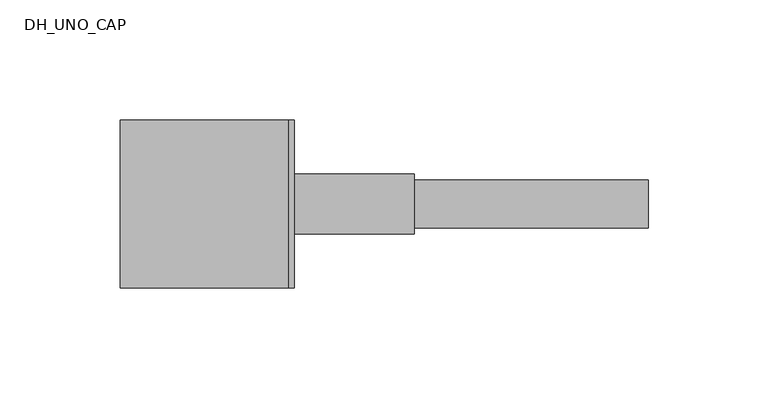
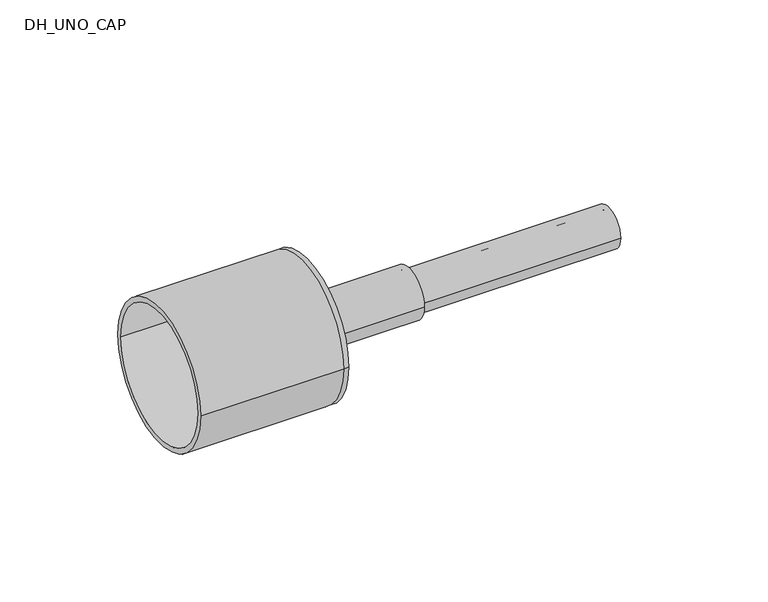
"""IFC4 building model written with IfcOpenShell, lengths in millimetres: pipe fitting geometry, DH_UNO_CAP : INSULPEX UNO 7.4 DW - Rubber Cap."""

from ifc_helpers import new_model, si_unit, point, frame, origin, origin_2d, place, context, project, spatial, polyline, circle_curve, trimmed, segment, composite_curve, outline, extrude, source, transform, mapped, element, save
from ifc_brep_helpers import plane_surface, cylinder_surface, revolved_surface, advanced_brep


def dh_uno_cap_0c001599(model_context):
    return source(origin(), model_context, "Body", "SolidModel", [
        extrude(outline(composite_curve([segment(trimmed(circle_curve(origin_2d(), 10.0), [point((-10.0, 0.0))], [point((10.0, 0.0))], False, "CARTESIAN"), True, "CONTINUOUS"), segment(trimmed(circle_curve(origin_2d(), 10.0), [point((10.0, 0.0))], [point((-10.0, 0.0))], False, "CARTESIAN"), True, "CONTINUOUS")], self_intersect=False), holes=[composite_curve([segment(trimmed(circle_curve(origin_2d(), 7.2), [point((-7.2, 0.0))], [point((7.2, 0.0))], True, "CARTESIAN"), True, "CONTINUOUS"), segment(trimmed(circle_curve(origin_2d(), 7.2), [point((7.2, 0.0))], [point((-7.2, 0.0))], True, "CARTESIAN"), True, "CONTINUOUS")], self_intersect=False)]), frame((0.0, 0.0, 0.0), z_axis=(1.0, 0.0, 0.0), x_axis=(0.0, 1.0, 0.0)), (0.0, 0.0, 1.0), 150.0),
        advanced_brep(
        [(-70.0, -35.0, 0.0), (-70.0, 35.0, 0.0), (-70.0, -32.5, 0.0), (-70.0, 32.5, 0.0), (0.0, -32.5, 0.0), (0.0, 32.5, 0.0), (0.0, -35.0, 0.0), (0.0, 35.0, 0.0), (0.0, 10.0, 0.0), (0.0, -10.0, 0.0), (2.5, -35.0, 0.0), (2.5, 35.0, 0.0), (2.5, -10.0, 0.0), (2.5, 10.0, 0.0)],
        [
            (0, 1, circle_curve(frame((-70.0, 0.0, 0.0), z_axis=(-1.0, 0.0, 0.0), x_axis=(0.0, 1.0, 0.0)), 35.0)),
            (1, 0, circle_curve(frame((-70.0, 0.0, 0.0), z_axis=(-1.0, 0.0, 0.0), x_axis=(0.0, 1.0, 0.0)), 35.0)),
            (2, 3, circle_curve(frame((-70.0, 0.0, 0.0), z_axis=(1.0, 0.0, 0.0), x_axis=(0.0, 1.0, 0.0)), 32.5)),
            (3, 2, circle_curve(frame((-70.0, 0.0, 0.0), z_axis=(1.0, 0.0, 0.0), x_axis=(0.0, 1.0, 0.0)), 32.5)),
            (2, 4),
            (4, 5, circle_curve(frame((0.0, 0.0, 0.0), z_axis=(1.0, 0.0, 0.0), x_axis=(0.0, 1.0, 0.0)), 32.5)),
            (5, 3),
            (5, 4, circle_curve(frame((0.0, 0.0, 0.0), z_axis=(1.0, 0.0, 0.0), x_axis=(0.0, 1.0, 0.0)), 32.5)),
            (0, 6),
            (6, 7, circle_curve(frame((0.0, 0.0, 0.0), z_axis=(-1.0, 0.0, 0.0), x_axis=(0.0, 1.0, 0.0)), 35.0)),
            (7, 1),
            (7, 6, circle_curve(frame((0.0, 0.0, 0.0), z_axis=(-1.0, 0.0, 0.0), x_axis=(0.0, 1.0, 0.0)), 35.0)),
            (8, 9, circle_curve(frame((0.0, 0.0, 0.0), z_axis=(1.0, 0.0, 0.0), x_axis=(0.0, 1.0, 0.0)), 10.0)),
            (9, 8, circle_curve(frame((0.0, 0.0, 0.0), z_axis=(1.0, 0.0, 0.0), x_axis=(0.0, 1.0, 0.0)), 10.0)),
            (10, 11, circle_curve(frame((2.5, 0.0, 0.0), z_axis=(1.0, 0.0, 0.0), x_axis=(0.0, 1.0, 0.0)), 35.0)),
            (11, 10, circle_curve(frame((2.5, 0.0, 0.0), z_axis=(1.0, 0.0, 0.0), x_axis=(0.0, 1.0, 0.0)), 35.0)),
            (12, 13, circle_curve(frame((2.5, 0.0, 0.0), z_axis=(-1.0, 0.0, 0.0), x_axis=(0.0, 1.0, 0.0)), 10.0)),
            (13, 12, circle_curve(frame((2.5, 0.0, 0.0), z_axis=(-1.0, 0.0, 0.0), x_axis=(0.0, 1.0, 0.0)), 10.0)),
            (11, 7),
            (6, 10),
            (8, 13),
            (12, 9),
        ],
        [
            plane_surface(frame((-70.0, 0.0, 0.0), z_axis=(-1.0, 0.0, 0.0), x_axis=(0.0, 0.0, 1.0))),
            revolved_surface(polyline([(0.0, 32.5, 0.0), (-70.0, 32.5, 0.0)]), (-70.0, 0.0, 0.0), (1.0, 0.0, 0.0)),
            cylinder_surface(frame((-70.0, 0.0, 0.0), z_axis=(-1.0, 0.0, 0.0), x_axis=(0.0, 1.0, 0.0)), 35.0),
            plane_surface(frame((0.0, 0.0, 0.0), z_axis=(-1.0, 0.0, 0.0), x_axis=(0.0, 0.0, 1.0))),
            plane_surface(frame((2.5, 0.0, 0.0), z_axis=(1.0, 0.0, 0.0), x_axis=(0.0, 0.0, 1.0))),
            cylinder_surface(frame((0.0, 0.0, 0.0), z_axis=(-1.0, 0.0, 0.0), x_axis=(0.0, 1.0, 0.0)), 35.0),
            revolved_surface(polyline([(0.0, 10.0, 0.0), (2.5, 10.0, 0.0)]), (0.0, 0.0, 0.0), (-1.0, 0.0, 0.0)),
        ],
        [
            (0, [[1, 2], [3, 4]]),
            (1, [[-3, 5, 6, 7]]),
            (1, [[-4, -7, 8, -5]]),
            (2, [[-1, 9, 10, 11]]),
            (2, [[-2, -11, 12, -9]]),
            (3, [[-6, -8], [13, 14]]),
            (4, [[15, 16], [17, 18]]),
            (5, [[-16, 19, -10, 20]]),
            (5, [[-15, -20, -12, -19]]),
            (6, [[21, -17, 22, -13]]),
            (6, [[-21, -14, -22, -18]]),
        ],
    ),
        extrude(outline(composite_curve([segment(trimmed(circle_curve(origin_2d(), 12.5), [point((-12.5, 0.0))], [point((12.5, 0.0))], False, "CARTESIAN"), True, "CONTINUOUS"), segment(trimmed(circle_curve(origin_2d(), 12.5), [point((12.5, 0.0))], [point((-12.5, 0.0))], False, "CARTESIAN"), True, "CONTINUOUS")], self_intersect=False), holes=[composite_curve([segment(trimmed(circle_curve(origin_2d(), 10.0), [point((-10.0, 0.0))], [point((10.0, 0.0))], True, "CARTESIAN"), True, "CONTINUOUS"), segment(trimmed(circle_curve(origin_2d(), 10.0), [point((10.0, 0.0))], [point((-10.0, 0.0))], True, "CARTESIAN"), True, "CONTINUOUS")], self_intersect=False)]), frame((2.5, 0.0, 0.0), z_axis=(1.0, 0.0, 0.0), x_axis=(0.0, 1.0, 0.0)), (0.0, 0.0, 1.0), 50.0),
    ])


if __name__ == "__main__":
    model = new_model("IFC4")
    model_context = context("Model", 3, world=origin())
    ifc_project = project(units=[si_unit("LENGTHUNIT", "METRE", prefix="MILLI")], contexts=[model_context])
    site = spatial("IfcSite", under=ifc_project)
    building = spatial("IfcBuilding", under=site)
    placement = place(None, origin())
    dh_uno_cap_shape = dh_uno_cap_0c001599(model_context)
    element("IfcPipeFitting", 1, ObjectType="DH_UNO_CAP : INSULPEX UNO 7.4 DW - Rubber Cap", at=placement, inside=building, context=model_context, shape_type="MappedRepresentation", body=[
        mapped(dh_uno_cap_shape, transform((0.0, 0.0, 0.0), x_axis=(1.0, 0.0, 0.0), y_axis=(0.0, 1.0, 0.0), z_axis=(0.0, 0.0, 1.0))),
    ])
    save(model, "model.ifc")
